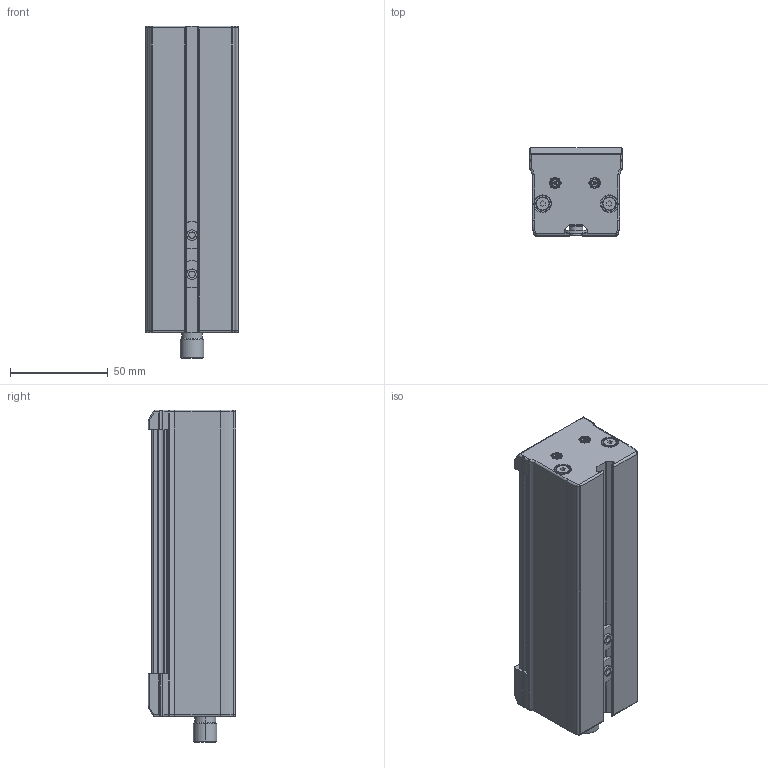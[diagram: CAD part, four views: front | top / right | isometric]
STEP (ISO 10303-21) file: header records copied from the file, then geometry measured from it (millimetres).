
FILE_DESCRIPTION (( 'STEP AP214' ), '1' );
FILE_NAME ('EBAR-EC-125-xxx-xx_CLIENT.STEP', '2026-06-04T10:43:12', ( '' ), ( '' ), 'SwSTEP 2.0', 'SolidWorks 2025', '' );
FILE_SCHEMA (( 'AUTOMOTIVE_DESIGN' ));
Length unit declared in the file: millimetre
Products named in the file (3): EBAR-EC-125-xxx-xx_CLIENT; 1-X2014-01-3-A; EBAR-EC-xxx-xxx-xx_CLIENT_125
Assembly tree (3 placements, depth 2):
  EBAR-EC-125-xxx-xx_CLIENT
    EBAR-EC-xxx-xxx-xx_CLIENT_125
    1-X2014-01-3-A  x2
Bounding box: 47.63 x 45 x 170.06 mm (x, y, z)
Volume: 284171.9 mm3; surface area: 39372.4 mm2
Topology: 3 solids, 3 shells, 731 faces, 1873 edges, 1204 vertices
Faces by surface type: plane 311, cylinder 207, bspline 131, torus 62, cone 16, sphere 4
Entity records: 26468 total; most frequent: CARTESIAN_POINT 9553, ORIENTED_EDGE 3600, DIRECTION 3083, EDGE_CURVE 1800, VERTEX_POINT 1163, AXIS2_PLACEMENT_3D 1065, LINE 953, VECTOR 953
